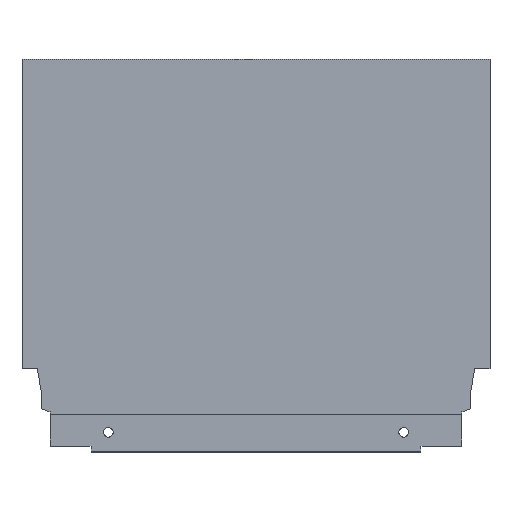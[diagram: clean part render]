
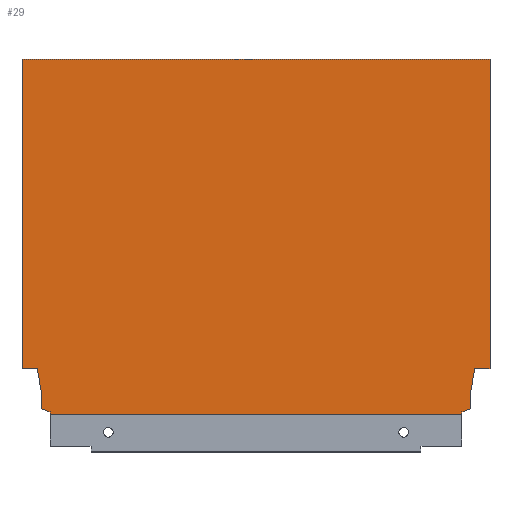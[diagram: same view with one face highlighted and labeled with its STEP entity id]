
A CAD part, top view. The second image highlights one B-rep face of the part: STEP entity #29.
In plain terms, the highlighted planar face has unit normal (0, 0, 1).
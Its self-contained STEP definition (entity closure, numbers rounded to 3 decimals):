
#29 = ADVANCED_FACE ( 'NONE', ( #1009 ), #447, .T. ) ;
#60 = CARTESIAN_POINT ( 'NONE',  ( -217., 164.7, 7.5 ) ) ;
#72 = CARTESIAN_POINT ( 'NONE',  ( -208.1, 10.765, 7.5 ) ) ;
#74 = CARTESIAN_POINT ( 'NONE',  ( -13.004, 1.146, 7.5 ) ) ;
#75 = DIRECTION ( 'NONE',  ( -1., 0., 0. ) ) ;
#76 = CARTESIAN_POINT ( 'NONE',  ( -208.1, 2.64, 7.5 ) ) ;
#82 = DIRECTION ( 'NONE',  ( -0.94, 0.342, 0. ) ) ;
#84 = CARTESIAN_POINT ( 'NONE',  ( -208.1, 10.765, 7.5 ) ) ;
#86 = DIRECTION ( 'NONE',  ( 0., 1., 0. ) ) ;
#87 = DIRECTION ( 'NONE',  ( -0.174, 0.985, 0. ) ) ;
#91 = CARTESIAN_POINT ( 'NONE',  ( 0., 21.2, 7.5 ) ) ;
#104 = DIRECTION ( 'NONE',  ( -1., 0., 0. ) ) ;
#105 = DIRECTION ( 'NONE',  ( -0.174, -0.985, 0. ) ) ;
#106 = CARTESIAN_POINT ( 'NONE',  ( 0., 21.2, 7.5 ) ) ;
#110 = DIRECTION ( 'NONE',  ( 0., -1., 0. ) ) ;
#112 = CARTESIAN_POINT ( 'NONE',  ( -217., 0., 7.5 ) ) ;
#114 = DIRECTION ( 'NONE',  ( 0., -1., 0. ) ) ;
#115 = CARTESIAN_POINT ( 'NONE',  ( -7.06, 21.2, 7.5 ) ) ;
#116 = DIRECTION ( 'NONE',  ( 0., -1., 0. ) ) ;
#120 = CARTESIAN_POINT ( 'NONE',  ( 0., 0., 7.5 ) ) ;
#121 = DIRECTION ( 'NONE',  ( -0.94, -0.342, 0. ) ) ;
#122 = CARTESIAN_POINT ( 'NONE',  ( -8.9, 2.64, 7.5 ) ) ;
#125 = DIRECTION ( 'NONE',  ( 0., -1., 0. ) ) ;
#133 = DIRECTION ( 'NONE',  ( 0., 1., 0. ) ) ;
#152 = CARTESIAN_POINT ( 'NONE',  ( -203.996, 1.146, 7.5 ) ) ;
#154 = CARTESIAN_POINT ( 'NONE',  ( -222., 21.2, 7.5 ) ) ;
#159 = CARTESIAN_POINT ( 'NONE',  ( -8.9, 10.765, 7.5 ) ) ;
#161 = CARTESIAN_POINT ( 'NONE',  ( -217., 0., 7.5 ) ) ;
#163 = DIRECTION ( 'NONE',  ( 1., 0., 0. ) ) ;
#164 = CARTESIAN_POINT ( 'NONE',  ( -209.94, 21.2, 7.5 ) ) ;
#188 = CARTESIAN_POINT ( 'NONE',  ( -217., 21.2, 7.5 ) ) ;
#205 = CARTESIAN_POINT ( 'NONE',  ( -203.996, 1.146, 7.5 ) ) ;
#252 = DIRECTION ( 'NONE',  ( 1., 0., 0. ) ) ;
#253 = DIRECTION ( 'NONE',  ( 0., 0., 1. ) ) ;
#266 = DIRECTION ( 'NONE',  ( 1., 0., 0. ) ) ;
#346 = CARTESIAN_POINT ( 'NONE',  ( -8.9, 10.765, 7.5 ) ) ;
#404 = CARTESIAN_POINT ( 'NONE',  ( -13.004, 0., 7.5 ) ) ;
#408 = CARTESIAN_POINT ( 'NONE',  ( -8.9, 2.64, 7.5 ) ) ;
#430 = CARTESIAN_POINT ( 'NONE',  ( -217., 0., 7.5 ) ) ;
#432 = CARTESIAN_POINT ( 'NONE',  ( -209.94, 21.2, 7.5 ) ) ;
#434 = CARTESIAN_POINT ( 'NONE',  ( -208.1, 2.64, 7.5 ) ) ;
#444 = CARTESIAN_POINT ( 'NONE',  ( -203.996, 0., 7.5 ) ) ;
#447 = PLANE ( 'NONE',  #699 ) ;
#454 = CARTESIAN_POINT ( 'NONE',  ( 0., 164.7, 7.5 ) ) ;
#458 = CARTESIAN_POINT ( 'NONE',  ( -217., 164.7, 7.5 ) ) ;
#459 = CARTESIAN_POINT ( 'NONE',  ( -13.004, 1.146, 7.5 ) ) ;
#462 = CARTESIAN_POINT ( 'NONE',  ( -7.06, 21.2, 7.5 ) ) ;
#483 = VERTEX_POINT ( 'NONE', #454 ) ;
#528 = VERTEX_POINT ( 'NONE', #459 ) ;
#539 = VERTEX_POINT ( 'NONE', #458 ) ;
#573 = VERTEX_POINT ( 'NONE', #91 ) ;
#601 = VERTEX_POINT ( 'NONE', #72 ) ;
#606 = VERTEX_POINT ( 'NONE', #462 ) ;
#614 = VERTEX_POINT ( 'NONE', #432 ) ;
#628 = VERTEX_POINT ( 'NONE', #434 ) ;
#632 = VERTEX_POINT ( 'NONE', #444 ) ;
#643 = VERTEX_POINT ( 'NONE', #205 ) ;
#645 = VERTEX_POINT ( 'NONE', #346 ) ;
#666 = VERTEX_POINT ( 'NONE', #404 ) ;
#669 = VERTEX_POINT ( 'NONE', #408 ) ;
#673 = VERTEX_POINT ( 'NONE', #188 ) ;
#699 = AXIS2_PLACEMENT_3D ( 'NONE', #430, #253, #252 ) ;
#751 = EDGE_CURVE ( 'NONE', #632, #643, #931, .T. ) ;
#754 = EDGE_CURVE ( 'NONE', #632, #666, #924, .T. ) ;
#755 = EDGE_CURVE ( 'NONE', #614, #673, #926, .T. ) ;
#756 = EDGE_CURVE ( 'NONE', #601, #614, #928, .T. ) ;
#757 = EDGE_CURVE ( 'NONE', #628, #601, #927, .T. ) ;
#758 = EDGE_CURVE ( 'NONE', #643, #628, #921, .T. ) ;
#759 = EDGE_CURVE ( 'NONE', #528, #666, #919, .T. ) ;
#760 = EDGE_CURVE ( 'NONE', #539, #673, #912, .T. ) ;
#761 = EDGE_CURVE ( 'NONE', #669, #528, #910, .T. ) ;
#762 = EDGE_CURVE ( 'NONE', #645, #669, #917, .T. ) ;
#763 = EDGE_CURVE ( 'NONE', #483, #573, #915, .T. ) ;
#764 = EDGE_CURVE ( 'NONE', #606, #645, #913, .T. ) ;
#766 = EDGE_CURVE ( 'NONE', #573, #606, #905, .T. ) ;
#768 = EDGE_CURVE ( 'NONE', #539, #483, #901, .T. ) ;
#896 = VECTOR ( 'NONE', #266, 1000. ) ;
#900 = VECTOR ( 'NONE', #104, 1000. ) ;
#901 = LINE ( 'NONE', #60, #896 ) ;
#904 = VECTOR ( 'NONE', #105, 1000. ) ;
#905 = LINE ( 'NONE', #106, #900 ) ;
#906 = VECTOR ( 'NONE', #110, 1000. ) ;
#908 = VECTOR ( 'NONE', #116, 1000. ) ;
#909 = VECTOR ( 'NONE', #121, 1000. ) ;
#910 = LINE ( 'NONE', #122, #909 ) ;
#911 = VECTOR ( 'NONE', #114, 1000. ) ;
#912 = LINE ( 'NONE', #112, #911 ) ;
#913 = LINE ( 'NONE', #115, #904 ) ;
#914 = VECTOR ( 'NONE', #125, 1000. ) ;
#915 = LINE ( 'NONE', #120, #906 ) ;
#916 = VECTOR ( 'NONE', #82, 1000. ) ;
#917 = LINE ( 'NONE', #159, #908 ) ;
#918 = VECTOR ( 'NONE', #86, 1000. ) ;
#919 = LINE ( 'NONE', #74, #914 ) ;
#920 = VECTOR ( 'NONE', #87, 1000. ) ;
#921 = LINE ( 'NONE', #76, #916 ) ;
#922 = VECTOR ( 'NONE', #75, 1000. ) ;
#923 = VECTOR ( 'NONE', #163, 1000. ) ;
#924 = LINE ( 'NONE', #161, #923 ) ;
#926 = LINE ( 'NONE', #154, #922 ) ;
#927 = LINE ( 'NONE', #84, #918 ) ;
#928 = LINE ( 'NONE', #164, #920 ) ;
#929 = VECTOR ( 'NONE', #133, 1000. ) ;
#931 = LINE ( 'NONE', #152, #929 ) ;
#1009 = FACE_OUTER_BOUND ( 'NONE', #1060, .T. ) ;
#1060 = EDGE_LOOP ( 'NONE', ( #1182, #1183, #1184, #1185, #1186, #1187, #1188, #1189, #1190, #1191, #1192, #1193, #1194, #1195 ) ) ;
#1182 = ORIENTED_EDGE ( 'NONE', *, *, #760, .T. ) ;
#1183 = ORIENTED_EDGE ( 'NONE', *, *, #755, .F. ) ;
#1184 = ORIENTED_EDGE ( 'NONE', *, *, #756, .F. ) ;
#1185 = ORIENTED_EDGE ( 'NONE', *, *, #757, .F. ) ;
#1186 = ORIENTED_EDGE ( 'NONE', *, *, #758, .F. ) ;
#1187 = ORIENTED_EDGE ( 'NONE', *, *, #751, .F. ) ;
#1188 = ORIENTED_EDGE ( 'NONE', *, *, #754, .T. ) ;
#1189 = ORIENTED_EDGE ( 'NONE', *, *, #759, .F. ) ;
#1190 = ORIENTED_EDGE ( 'NONE', *, *, #761, .F. ) ;
#1191 = ORIENTED_EDGE ( 'NONE', *, *, #762, .F. ) ;
#1192 = ORIENTED_EDGE ( 'NONE', *, *, #764, .F. ) ;
#1193 = ORIENTED_EDGE ( 'NONE', *, *, #766, .F. ) ;
#1194 = ORIENTED_EDGE ( 'NONE', *, *, #763, .F. ) ;
#1195 = ORIENTED_EDGE ( 'NONE', *, *, #768, .F. ) ;
